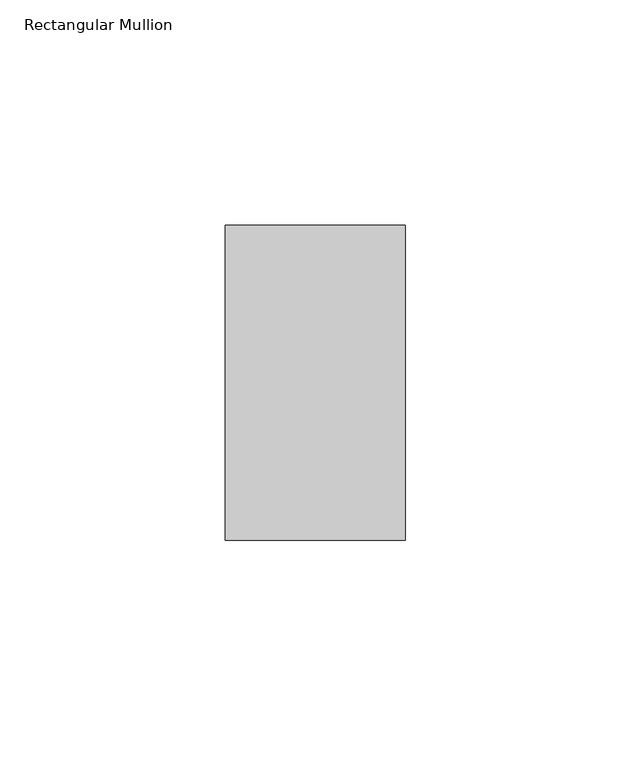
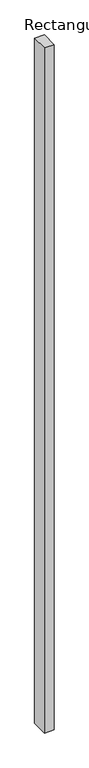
"""IFC4 building model written with IfcOpenShell, lengths in millimetres: member geometry, Rectangular Mullion : RSen_21_CWM_support profile - 40x70 - left_gen_duco projects."""

from ifc_helpers import new_model, si_unit, frame, origin, place, context, project, spatial, polyline, outline, extrude, source, transform, mapped, element, save


def rectangular_mullion_d1e4c811(model_context):
    return source(origin(), model_context, "Body", "SweptSolid", [
        extrude(outline(polyline([(-50.0, 1.0), (-50.0, -69.0), (-90.0, -69.0), (-90.0, 1.0), (-50.0, 1.0)])), frame((0.0, 0.0, -3000.0), z_axis=(0.0, 0.0, 1.0), x_axis=(1.0, 0.0, 0.0)), (0.0, 0.0, 1.0), 3000.0),
    ])


if __name__ == "__main__":
    model = new_model("IFC4")
    model_context = context("Model", 3, world=origin())
    ifc_project = project(units=[si_unit("LENGTHUNIT", "METRE", prefix="MILLI")], contexts=[model_context])
    site = spatial("IfcSite", under=ifc_project)
    building = spatial("IfcBuilding", under=site)
    placement = place(None, origin())
    rectangular_mullion_shape = rectangular_mullion_d1e4c811(model_context)
    element("IfcMember", 1, ObjectType="Rectangular Mullion : RSen_21_CWM_support profile - 40x70 - left_gen_duco projects", at=placement, inside=building, context=model_context, shape_type="MappedRepresentation", body=[
        mapped(rectangular_mullion_shape, transform((0.0, 0.0, 0.0), x_axis=(1.0, 0.0, 0.0), y_axis=(0.0, 1.0, 0.0), z_axis=(0.0, 0.0, 1.0))),
    ])
    save(model, "model.ifc")
